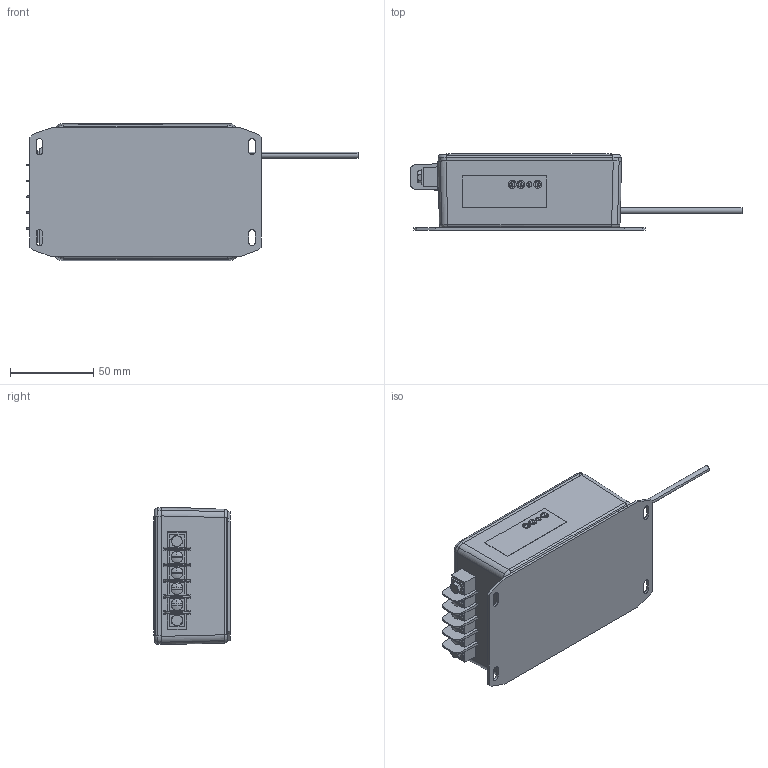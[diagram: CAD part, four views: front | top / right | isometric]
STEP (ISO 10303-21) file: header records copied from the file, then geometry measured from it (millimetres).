
FILE_DESCRIPTION (( 'STEP AP203' ), '1' );
FILE_NAME ('RC-STD - Rev D.STEP', '2018-01-31T19:48:18', ( '' ), ( '' ), 'SwSTEP 2.0', 'SolidWorks 2018', '' );
FILE_SCHEMA (( 'CONFIG_CONTROL_DESIGN' ));
Length unit declared in the file: inch
Products named in the file (15): 91841A007_TYPE 18-8 STAINLESS STEEL HEX NUT_91841A007; RC-STD Control Label; 1590S Box - RC-STD Rev D; RC-STD Top Label; 1590S Lid; 95584A201_TYPE 18-8 SS EXTERNAL-TOOTH LOCK WASHER_95584A201; SC530 (screw #6-32X 1_2'''' FH); 1590S Flange; RCSTD- FO Cable End; 1590SF-RC-STD-REV D; Adjustment Screw; 70110959; D-Label Pot Cover; RC-STD - Rev D; 92314A151_18-8 STAINLESS STEEL HEX HEAD MACHINE SCREW_92314A151
Assembly tree (25 placements, depth 3):
  RC-STD - Rev D
    1590SF-RC-STD-REV D
      1590S Box - RC-STD Rev D
      1590S Lid
      SC530 (screw #6-32X 1_2'''' FH)  x4
      1590S Flange
    70110959
    92314A151_18-8 STAINLESS STEEL HEX HEAD MACHINE SCREW_92314A151  x2
    91841A007_TYPE 18-8 STAINLESS STEEL HEX NUT_91841A007  x2
    RC-STD Control Label
    RC-STD Top Label
    95584A201_TYPE 18-8 SS EXTERNAL-TOOTH LOCK WASHER_95584A201  x2
    RCSTD- FO Cable End
    Adjustment Screw  x4
    D-Label Pot Cover  x3
Bounding box: 199.68 x 45.86 x 82.57 mm (x, y, z)
Volume: 111386.2 mm3; surface area: 113968 mm2
Topology: 26 solids, 26 shells, 1368 faces, 3518 edges, 2242 vertices
Faces by surface type: plane 472, cylinder 400, bspline 382, cone 90, sphere 16, torus 8
Entity records: 40999 total; most frequent: CARTESIAN_POINT 15521, ORIENTED_EDGE 5406, DIRECTION 4043, EDGE_CURVE 2703, VERTEX_POINT 1731, VECTOR 1581, LINE 1581, AXIS2_PLACEMENT_3D 1231
